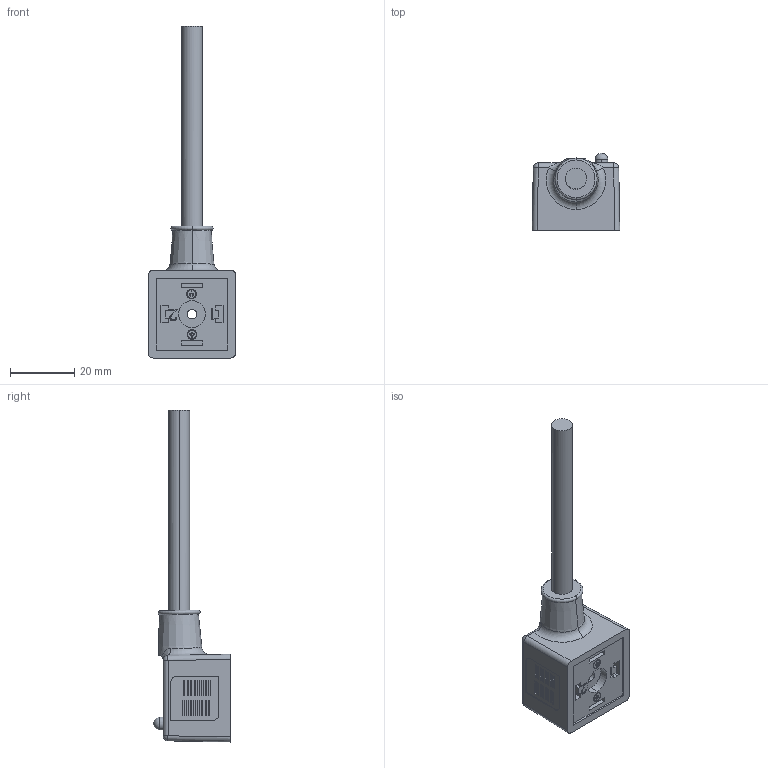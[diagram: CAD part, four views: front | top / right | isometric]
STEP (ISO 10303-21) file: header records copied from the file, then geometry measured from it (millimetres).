
FILE_DESCRIPTION (( 'STEP AP214' ), '1' );
FILE_NAME ('VAC-ZZ20-00.STEP', '2010-05-04T15:11:45', ( 'Mencom29332' ), ( '' ), 'SwSTEP 2.0', 'SolidWorks 2010', '' );
FILE_SCHEMA (( 'AUTOMOTIVE_DESIGN' ));
Length unit declared in the file: inch
Products named in the file (1): VAC-ZZ20-00
Bounding box: 27.36 x 24.18 x 103.56 mm (x, y, z)
Volume: 18037.6 mm3; surface area: 6813.8 mm2
Topology: 1 solids, 1 shells, 337 faces, 824 edges, 539 vertices
Faces by surface type: plane 280, cylinder 34, bspline 8, torus 6, sphere 5, cone 4
Entity records: 14588 total; most frequent: CARTESIAN_POINT 3145, ORIENTED_EDGE 1634, DIRECTION 1524, EDGE_CURVE 817, VECTOR 710, LINE 710, VERTEX_POINT 537, AXIS2_PLACEMENT_3D 407
